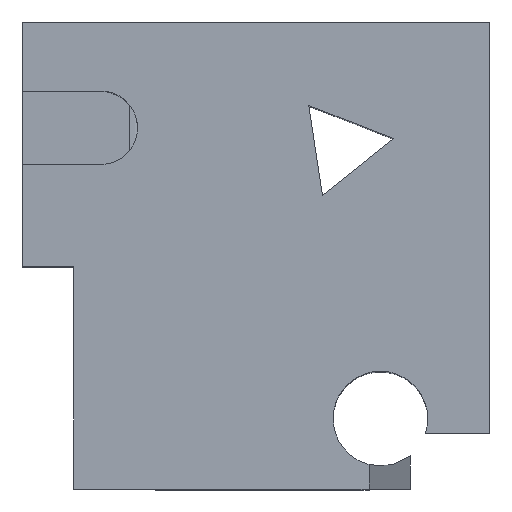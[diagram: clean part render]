
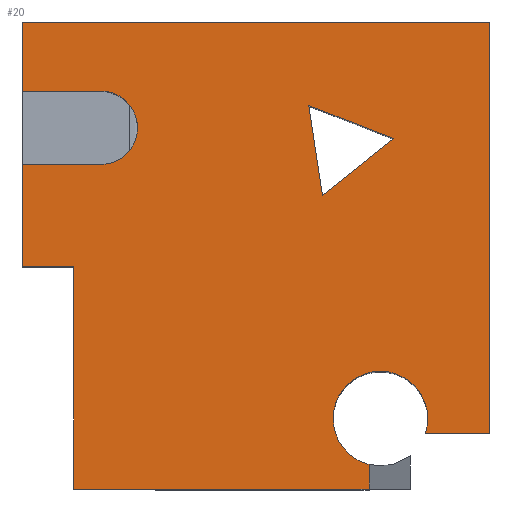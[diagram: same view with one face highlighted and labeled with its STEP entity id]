
A CAD part, top view. The second image highlights one B-rep face of the part: STEP entity #20.
In plain terms, the highlighted planar face has unit normal (0, 0, 1).
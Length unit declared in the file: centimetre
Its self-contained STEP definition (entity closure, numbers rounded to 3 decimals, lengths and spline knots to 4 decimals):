
#2 = ORIENTED_EDGE ( 'NONE', *, *, #1483, .F. ) ;
#7 = CARTESIAN_POINT ( 'NONE',  ( 167.7249, 852.2271, 1000. ) ) ;
#8 = EDGE_CURVE ( 'NONE', #188, #261, #680, .T. ) ;
#20 = ADVANCED_FACE ( 'NONE', ( #1054, #826 ), #1327, .T. ) ;
#25 = CARTESIAN_POINT ( 'NONE',  ( 167.7249, 695.1045, 1000. ) ) ;
#29 = ORIENTED_EDGE ( 'NONE', *, *, #812, .T. ) ;
#53 = DIRECTION ( 'NONE',  ( -1., 0., 0. ) ) ;
#59 = VERTEX_POINT ( 'NONE', #316 ) ;
#62 = LINE ( 'NONE', #1051, #1600 ) ;
#67 = EDGE_CURVE ( 'NONE', #784, #261, #344, .T. ) ;
#72 = LINE ( 'NONE', #838, #269 ) ;
#78 = CARTESIAN_POINT ( 'NONE',  ( 0., 0., 1000. ) ) ;
#82 = CIRCLE ( 'NONE', #814, 101.2523 ) ;
#87 = CARTESIAN_POINT ( 'NONE',  ( 0., 1000., 1000. ) ) ;
#96 = ORIENTED_EDGE ( 'NONE', *, *, #1496, .F. ) ;
#127 = EDGE_CURVE ( 'NONE', #493, #1138, #360, .T. ) ;
#130 = VERTEX_POINT ( 'NONE', #1441 ) ;
#131 = ORIENTED_EDGE ( 'NONE', *, *, #1108, .F. ) ;
#133 = CARTESIAN_POINT ( 'NONE',  ( 794.508, 750.5432, 1000. ) ) ;
#138 = VERTEX_POINT ( 'NONE', #1320 ) ;
#164 = ORIENTED_EDGE ( 'NONE', *, *, #865, .F. ) ;
#171 = CARTESIAN_POINT ( 'NONE',  ( 741.9006, 119.8924, 1000. ) ) ;
#183 = VERTEX_POINT ( 'NONE', #1125 ) ;
#187 = LINE ( 'NONE', #171, #1495 ) ;
#188 = VERTEX_POINT ( 'NONE', #7 ) ;
#191 = CIRCLE ( 'NONE', #842, 101.2523 ) ;
#209 = DIRECTION ( 'NONE',  ( 0., 0., 1. ) ) ;
#212 = ORIENTED_EDGE ( 'NONE', *, *, #1517, .T. ) ;
#250 = DIRECTION ( 'NONE',  ( 0., -1., 0. ) ) ;
#261 = VERTEX_POINT ( 'NONE', #599 ) ;
#264 = LINE ( 'NONE', #133, #660 ) ;
#269 = VECTOR ( 'NONE', #1071, 100. ) ;
#309 = VERTEX_POINT ( 'NONE', #480 ) ;
#312 = CARTESIAN_POINT ( 'NONE',  ( 642.3309, 628.6446, 1000. ) ) ;
#316 = CARTESIAN_POINT ( 'NONE',  ( 246.2862, 773.6658, 1000. ) ) ;
#326 = EDGE_CURVE ( 'NONE', #483, #183, #978, .T. ) ;
#329 = CARTESIAN_POINT ( 'NONE',  ( 1000., 1000., 1000. ) ) ;
#344 = LINE ( 'NONE', #942, #1614 ) ;
#347 = VERTEX_POINT ( 'NONE', #361 ) ;
#356 = AXIS2_PLACEMENT_3D ( 'NONE', #78, #209, #693 ) ;
#360 = CIRCLE ( 'NONE', #831, 101.2523 ) ;
#361 = CARTESIAN_POINT ( 'NONE',  ( 0., 476.4523, 1000. ) ) ;
#378 = CARTESIAN_POINT ( 'NONE',  ( 109.4539, 476.4523, 1000. ) ) ;
#381 = ORIENTED_EDGE ( 'NONE', *, *, #466, .F. ) ;
#417 = DIRECTION ( 'NONE',  ( 1., 0., 0. ) ) ;
#431 = ORIENTED_EDGE ( 'NONE', *, *, #1537, .F. ) ;
#466 = EDGE_CURVE ( 'NONE', #1303, #130, #264, .T. ) ;
#469 = DIRECTION ( 'NONE',  ( 0., 0., 1. ) ) ;
#480 = CARTESIAN_POINT ( 'NONE',  ( 0., 695.1045, 1000. ) ) ;
#483 = VERTEX_POINT ( 'NONE', #1589 ) ;
#493 = VERTEX_POINT ( 'NONE', #1448 ) ;
#517 = LINE ( 'NONE', #1267, #1417 ) ;
#535 = LINE ( 'NONE', #805, #1106 ) ;
#547 = CARTESIAN_POINT ( 'NONE',  ( 167.7249, 773.6658, 1000. ) ) ;
#548 = EDGE_CURVE ( 'NONE', #1275, #59, #1374, .T. ) ;
#553 = ORIENTED_EDGE ( 'NONE', *, *, #548, .F. ) ;
#572 = DIRECTION ( 'NONE',  ( 0., -1., 0. ) ) ;
#574 = ORIENTED_EDGE ( 'NONE', *, *, #628, .T. ) ;
#593 = DIRECTION ( 'NONE',  ( 1., 0., 0. ) ) ;
#599 = CARTESIAN_POINT ( 'NONE',  ( 0., 852.2271, 1000. ) ) ;
#600 = DIRECTION ( 'NONE',  ( -1., 0., 0. ) ) ;
#628 = EDGE_CURVE ( 'NONE', #183, #1113, #72, .T. ) ;
#647 = EDGE_LOOP ( 'NONE', ( #381, #96, #1059 ) ) ;
#660 = VECTOR ( 'NONE', #1235, 100. ) ;
#675 = ORIENTED_EDGE ( 'NONE', *, *, #326, .T. ) ;
#678 = DIRECTION ( 'NONE',  ( 0., -1., 0. ) ) ;
#680 = LINE ( 'NONE', #1522, #851 ) ;
#693 = DIRECTION ( 'NONE',  ( 1., 0., 0. ) ) ;
#706 = EDGE_CURVE ( 'NONE', #483, #347, #517, .T. ) ;
#714 = CARTESIAN_POINT ( 'NONE',  ( 642.3309, 628.6446, 1000. ) ) ;
#718 = DIRECTION ( 'NONE',  ( 1., 0., 0. ) ) ;
#738 = CARTESIAN_POINT ( 'NONE',  ( 1000., 119.8924, 1000. ) ) ;
#750 = DIRECTION ( 'NONE',  ( 0.151, -0.989, 0. ) ) ;
#784 = VERTEX_POINT ( 'NONE', #1309 ) ;
#793 = CARTESIAN_POINT ( 'NONE',  ( 862.5829, 119.8924, 1000. ) ) ;
#802 = VERTEX_POINT ( 'NONE', #329 ) ;
#805 = CARTESIAN_POINT ( 'NONE',  ( 0., 1000., 1000. ) ) ;
#812 = EDGE_CURVE ( 'NONE', #1252, #802, #62, .T. ) ;
#814 = AXIS2_PLACEMENT_3D ( 'NONE', #1207, #1236, #593 ) ;
#815 = ORIENTED_EDGE ( 'NONE', *, *, #1178, .T. ) ;
#818 = DIRECTION ( 'NONE',  ( 0., 1., 0. ) ) ;
#826 = FACE_OUTER_BOUND ( 'NONE', #1032, .T. ) ;
#827 = DIRECTION ( 'NONE',  ( 0., 0., 1. ) ) ;
#831 = AXIS2_PLACEMENT_3D ( 'NONE', #1216, #469, #1591 ) ;
#838 = CARTESIAN_POINT ( 'NONE',  ( 0., 0., 1000. ) ) ;
#842 = AXIS2_PLACEMENT_3D ( 'NONE', #964, #1349, #718 ) ;
#851 = VECTOR ( 'NONE', #1176, 100. ) ;
#856 = VERTEX_POINT ( 'NONE', #714 ) ;
#865 = EDGE_CURVE ( 'NONE', #138, #493, #82, .T. ) ;
#874 = ORIENTED_EDGE ( 'NONE', *, *, #1258, .F. ) ;
#919 = DIRECTION ( 'NONE',  ( 0.78, 0.625, 0. ) ) ;
#942 = CARTESIAN_POINT ( 'NONE',  ( 0., 1000., 1000. ) ) ;
#943 = LINE ( 'NONE', #1045, #1340 ) ;
#956 = EDGE_CURVE ( 'NONE', #130, #856, #1243, .T. ) ;
#964 = CARTESIAN_POINT ( 'NONE',  ( 766.3098, 151.2535, 1000. ) ) ;
#978 = LINE ( 'NONE', #378, #1250 ) ;
#991 = ORIENTED_EDGE ( 'NONE', *, *, #127, .F. ) ;
#996 = CARTESIAN_POINT ( 'NONE',  ( 794.508, 750.5432, 1000. ) ) ;
#1008 = ORIENTED_EDGE ( 'NONE', *, *, #67, .T. ) ;
#1024 = VECTOR ( 'NONE', #750, 100. ) ;
#1032 = EDGE_LOOP ( 'NONE', ( #1478, #431, #29, #815, #1008, #1276, #874, #553, #131, #212, #1229, #675, #574, #2, #991, #164 ) ) ;
#1040 = DIRECTION ( 'NONE',  ( 0., -1., 0. ) ) ;
#1045 = CARTESIAN_POINT ( 'NONE',  ( 0., 695.1045, 1000. ) ) ;
#1046 = DIRECTION ( 'NONE',  ( -1., 0., 0. ) ) ;
#1051 = CARTESIAN_POINT ( 'NONE',  ( 1000., 1000., 1000. ) ) ;
#1054 = FACE_BOUND ( 'NONE', #647, .T. ) ;
#1059 = ORIENTED_EDGE ( 'NONE', *, *, #956, .F. ) ;
#1071 = DIRECTION ( 'NONE',  ( 1., 0., 0. ) ) ;
#1087 = LINE ( 'NONE', #87, #1185 ) ;
#1106 = VECTOR ( 'NONE', #1040, 100. ) ;
#1108 = EDGE_CURVE ( 'NONE', #309, #1275, #943, .T. ) ;
#1113 = VERTEX_POINT ( 'NONE', #1298 ) ;
#1125 = CARTESIAN_POINT ( 'NONE',  ( 109.4539, 0., 1000. ) ) ;
#1133 = VECTOR ( 'NONE', #1046, 100. ) ;
#1138 = VERTEX_POINT ( 'NONE', #1226 ) ;
#1144 = DIRECTION ( 'NONE',  ( 1., 0., 0. ) ) ;
#1172 = LINE ( 'NONE', #1305, #1133 ) ;
#1176 = DIRECTION ( 'NONE',  ( -1., 0., 0. ) ) ;
#1178 = EDGE_CURVE ( 'NONE', #802, #784, #1087, .T. ) ;
#1185 = VECTOR ( 'NONE', #600, 100. ) ;
#1207 = CARTESIAN_POINT ( 'NONE',  ( 766.3098, 151.2535, 1000. ) ) ;
#1216 = CARTESIAN_POINT ( 'NONE',  ( 766.3098, 151.2535, 1000. ) ) ;
#1226 = CARTESIAN_POINT ( 'NONE',  ( 741.9006, 52.9875, 1000. ) ) ;
#1229 = ORIENTED_EDGE ( 'NONE', *, *, #706, .F. ) ;
#1234 = CIRCLE ( 'NONE', #1393, 78.5613 ) ;
#1235 = DIRECTION ( 'NONE',  ( -0.932, 0.363, 0. ) ) ;
#1236 = DIRECTION ( 'NONE',  ( 0., 0., 1. ) ) ;
#1243 = LINE ( 'NONE', #1498, #1024 ) ;
#1250 = VECTOR ( 'NONE', #250, 100. ) ;
#1252 = VERTEX_POINT ( 'NONE', #738 ) ;
#1258 = EDGE_CURVE ( 'NONE', #59, #188, #1234, .T. ) ;
#1267 = CARTESIAN_POINT ( 'NONE',  ( 0., 476.4523, 1000. ) ) ;
#1275 = VERTEX_POINT ( 'NONE', #25 ) ;
#1276 = ORIENTED_EDGE ( 'NONE', *, *, #8, .F. ) ;
#1298 = CARTESIAN_POINT ( 'NONE',  ( 741.9006, 0., 1000. ) ) ;
#1303 = VERTEX_POINT ( 'NONE', #996 ) ;
#1305 = CARTESIAN_POINT ( 'NONE',  ( 1000., 119.8924, 1000. ) ) ;
#1309 = CARTESIAN_POINT ( 'NONE',  ( 0., 1000., 1000. ) ) ;
#1320 = CARTESIAN_POINT ( 'NONE',  ( 867.5621, 151.2535, 1000. ) ) ;
#1327 = PLANE ( 'NONE',  #356 ) ;
#1340 = VECTOR ( 'NONE', #417, 100. ) ;
#1349 = DIRECTION ( 'NONE',  ( 0., 0., 1. ) ) ;
#1374 = CIRCLE ( 'NONE', #1473, 78.5613 ) ;
#1393 = AXIS2_PLACEMENT_3D ( 'NONE', #1451, #827, #1144 ) ;
#1408 = VERTEX_POINT ( 'NONE', #793 ) ;
#1417 = VECTOR ( 'NONE', #53, 100. ) ;
#1422 = DIRECTION ( 'NONE',  ( 1., 0., 0. ) ) ;
#1428 = LINE ( 'NONE', #312, #1470 ) ;
#1441 = CARTESIAN_POINT ( 'NONE',  ( 612.8522, 821.3831, 1000. ) ) ;
#1448 = CARTESIAN_POINT ( 'NONE',  ( 665.0576, 151.2535, 1000. ) ) ;
#1451 = CARTESIAN_POINT ( 'NONE',  ( 167.7249, 773.6658, 1000. ) ) ;
#1470 = VECTOR ( 'NONE', #919, 100. ) ;
#1473 = AXIS2_PLACEMENT_3D ( 'NONE', #547, #1546, #1422 ) ;
#1478 = ORIENTED_EDGE ( 'NONE', *, *, #1619, .F. ) ;
#1483 = EDGE_CURVE ( 'NONE', #1138, #1113, #187, .T. ) ;
#1495 = VECTOR ( 'NONE', #678, 100. ) ;
#1496 = EDGE_CURVE ( 'NONE', #856, #1303, #1428, .T. ) ;
#1498 = CARTESIAN_POINT ( 'NONE',  ( 612.8522, 821.3831, 1000. ) ) ;
#1517 = EDGE_CURVE ( 'NONE', #309, #347, #535, .T. ) ;
#1522 = CARTESIAN_POINT ( 'NONE',  ( 167.7249, 852.2271, 1000. ) ) ;
#1537 = EDGE_CURVE ( 'NONE', #1252, #1408, #1172, .T. ) ;
#1546 = DIRECTION ( 'NONE',  ( 0., 0., 1. ) ) ;
#1589 = CARTESIAN_POINT ( 'NONE',  ( 109.4539, 476.4523, 1000. ) ) ;
#1591 = DIRECTION ( 'NONE',  ( 1., 0., 0. ) ) ;
#1600 = VECTOR ( 'NONE', #818, 100. ) ;
#1614 = VECTOR ( 'NONE', #572, 100. ) ;
#1619 = EDGE_CURVE ( 'NONE', #1408, #138, #191, .T. ) ;
